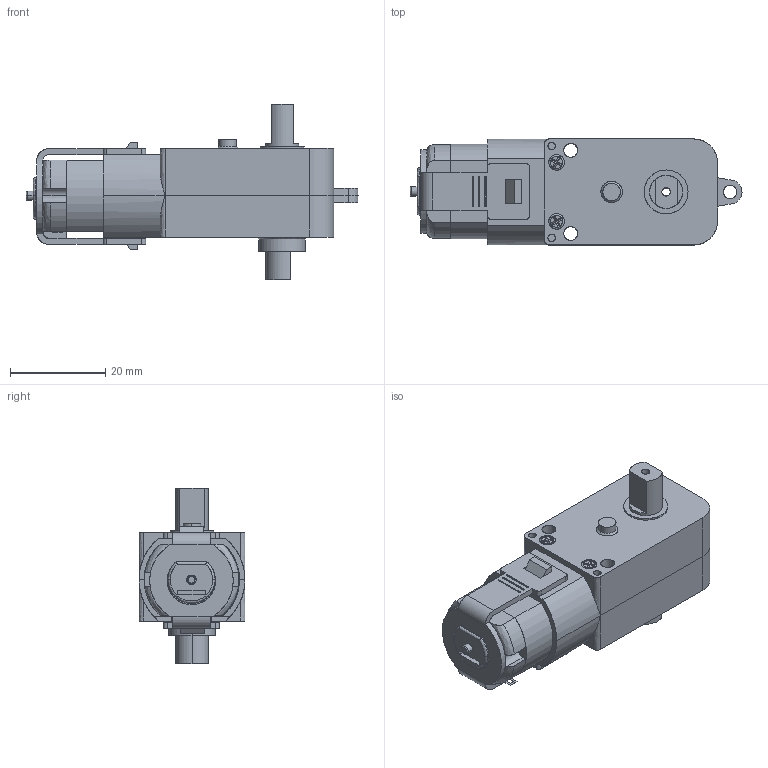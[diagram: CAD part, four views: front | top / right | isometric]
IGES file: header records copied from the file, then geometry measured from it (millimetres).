
Start section: SolidWorks IGES FILE using analytic representation for surfaces
Global section: file name: S:\Projects\Motor Stuff\Solidworks Motor Drawings\GM3\GM3-Export\Solidworks2003\Solarbotics-GM3.IGS; native system: SolidWorks 2003 by SolidWorks Corporation; preprocessor: Version 5.3; author: Dave; date: 081112.160415; units: millimetre
Bounding box: 69.63 x 22.23 x 36.77 mm (x, y, z)
Surface area: 12752.2 mm2 (no closed solid volume)
Topology: 0 solids, 0 shells, 434 faces, 4621 edges, 4597 vertices
Faces by surface type: bspline 248, revolution 186
